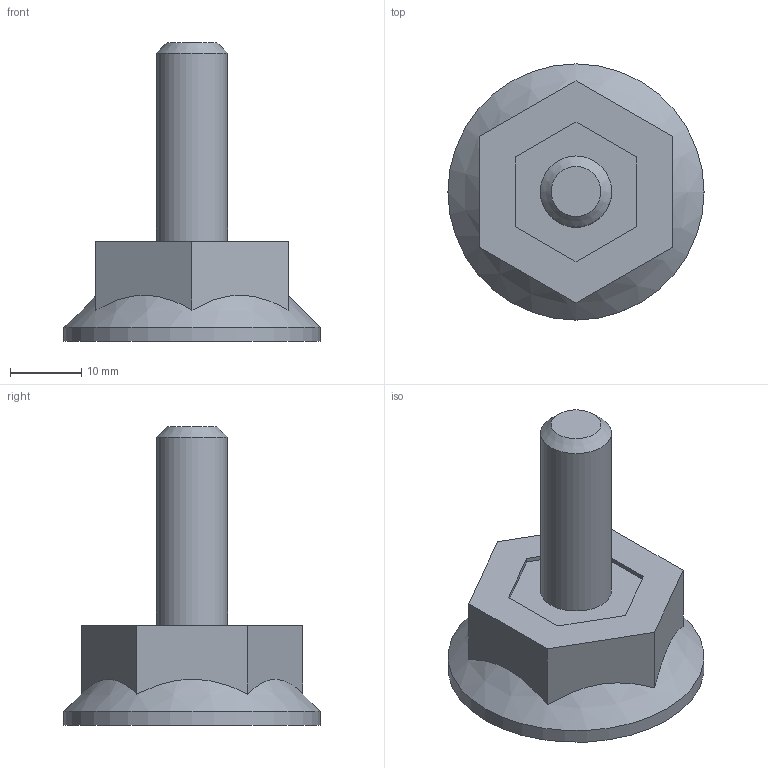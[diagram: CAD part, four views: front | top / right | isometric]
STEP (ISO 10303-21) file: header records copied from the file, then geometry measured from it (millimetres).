
FILE_DESCRIPTION( ('This file contains a STEP AP42 implementation' ,'as created by ZW3D STEP Interface translator.') ,'2;1' );
FILE_NAME( 'Stopka stala D36.stp' ,'26 812.15 6 1', (''), ('ZWCAD Software Co.'), 'Version 1.0', 'ZW3D to STEP translator', '' );
FILE_SCHEMA(('AP242_MANAGED_MODEL_BASED_3D_ENGINEERING_MIM_LF { 1 0 10303 442 1 1 4 }'));
Length unit declared in the file: millimetre
Products named in the file (1): 0
Bounding box: 36 x 36 x 42 mm (x, y, z)
Volume: 12402.8 mm3; surface area: 5348.2 mm2
Topology: 2 solids, 2 shells, 28 faces, 64 edges, 42 vertices
Faces by surface type: plane 24, cylinder 2, cone 2
Full cylindrical faces by diameter (mm): 10 x1, 36 x1
Entity records: 823 total; most frequent: CARTESIAN_POINT 149, ORIENTED_EDGE 128, DIRECTION 120, EDGE_CURVE 64, VECTOR 52, LINE 52, VERTEX_POINT 42, AXIS2_PLACEMENT_3D 34
